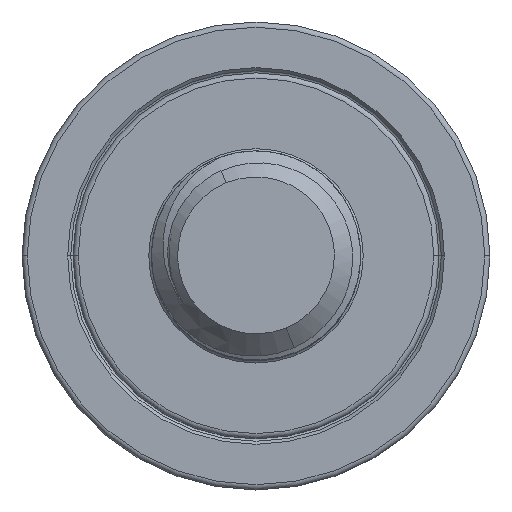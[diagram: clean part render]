
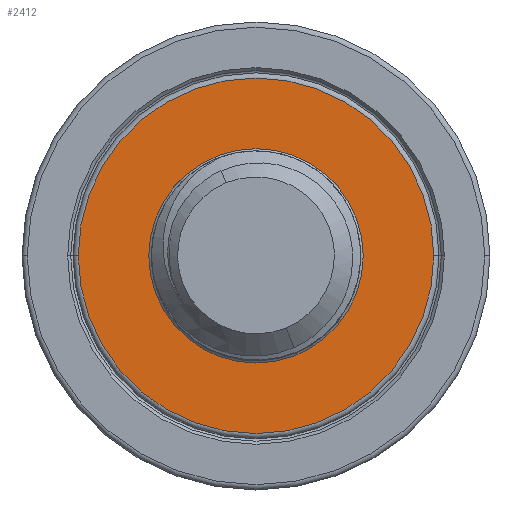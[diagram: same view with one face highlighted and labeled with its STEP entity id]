
A CAD part, top view. The second image highlights one B-rep face of the part: STEP entity #2412.
In plain terms, the highlighted planar face has unit normal (0, 0, 1).
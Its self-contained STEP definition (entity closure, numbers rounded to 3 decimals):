
#94 = AXIS2_PLACEMENT_3D ( 'NONE', #4004, #1506, #4457 ) ;
#128 = CARTESIAN_POINT ( 'NONE',  ( -10.142, 20.716, 19.051 ) ) ;
#172 = AXIS2_PLACEMENT_3D ( 'NONE', #2286, #2160, #2235 ) ;
#275 = FACE_OUTER_BOUND ( 'NONE', #3949, .T. ) ;
#378 = CARTESIAN_POINT ( 'NONE',  ( -3.342, 20.716, 19.051 ) ) ;
#403 = DIRECTION ( 'NONE',  ( 1., 0., 0. ) ) ;
#464 = AXIS2_PLACEMENT_3D ( 'NONE', #5476, #2899, #403 ) ;
#515 = DIRECTION ( 'NONE',  ( 1., 0., 0. ) ) ;
#792 = DIRECTION ( 'NONE',  ( 1., 0., 0. ) ) ;
#867 = VERTEX_POINT ( 'NONE', #3047 ) ;
#1339 = DIRECTION ( 'NONE',  ( 0., 0., 1. ) ) ;
#1415 = VERTEX_POINT ( 'NONE', #4787 ) ;
#1506 = DIRECTION ( 'NONE',  ( 0., 0., 1. ) ) ;
#1549 = EDGE_CURVE ( 'NONE', #2247, #1415, #3307, .T. ) ;
#2160 = DIRECTION ( 'NONE',  ( 0., 0., 1. ) ) ;
#2235 = DIRECTION ( 'NONE',  ( 1., 0., 0. ) ) ;
#2247 = VERTEX_POINT ( 'NONE', #128 ) ;
#2286 = CARTESIAN_POINT ( 'NONE',  ( -3.342, 20.716, 19.051 ) ) ;
#2318 = CIRCLE ( 'NONE', #3449, 4.1 ) ;
#2412 = ADVANCED_FACE ( 'NONE', ( #275, #4629 ), #3437, .T. ) ;
#2596 = CARTESIAN_POINT ( 'NONE',  ( 3.658, 20.716, 19.051 ) ) ;
#2741 = CARTESIAN_POINT ( 'NONE',  ( 0.758, 20.716, 19.051 ) ) ;
#2899 = DIRECTION ( 'NONE',  ( 0., 0., 1. ) ) ;
#2976 = ORIENTED_EDGE ( 'NONE', *, *, #4881, .T. ) ;
#3047 = CARTESIAN_POINT ( 'NONE',  ( -7.442, 20.716, 19.051 ) ) ;
#3104 = ORIENTED_EDGE ( 'NONE', *, *, #3897, .F. ) ;
#3169 = VERTEX_POINT ( 'NONE', #2741 ) ;
#3304 = DIRECTION ( 'NONE',  ( 0., 0., 1. ) ) ;
#3307 = CIRCLE ( 'NONE', #172, 6.8 ) ;
#3437 = PLANE ( 'NONE',  #5297 ) ;
#3449 = AXIS2_PLACEMENT_3D ( 'NONE', #378, #3304, #792 ) ;
#3897 = EDGE_CURVE ( 'NONE', #3169, #867, #2318, .T. ) ;
#3949 = EDGE_LOOP ( 'NONE', ( #2976, #4569 ) ) ;
#4004 = CARTESIAN_POINT ( 'NONE',  ( -3.342, 20.716, 19.051 ) ) ;
#4098 = CIRCLE ( 'NONE', #464, 4.1 ) ;
#4135 = EDGE_CURVE ( 'NONE', #867, #3169, #4098, .T. ) ;
#4158 = EDGE_LOOP ( 'NONE', ( #3104, #4673 ) ) ;
#4457 = DIRECTION ( 'NONE',  ( 1., 0., 0. ) ) ;
#4569 = ORIENTED_EDGE ( 'NONE', *, *, #1549, .T. ) ;
#4629 = FACE_BOUND ( 'NONE', #4158, .T. ) ;
#4673 = ORIENTED_EDGE ( 'NONE', *, *, #4135, .F. ) ;
#4787 = CARTESIAN_POINT ( 'NONE',  ( 3.458, 20.716, 19.051 ) ) ;
#4881 = EDGE_CURVE ( 'NONE', #1415, #2247, #5111, .T. ) ;
#5111 = CIRCLE ( 'NONE', #94, 6.8 ) ;
#5297 = AXIS2_PLACEMENT_3D ( 'NONE', #2596, #1339, #515 ) ;
#5476 = CARTESIAN_POINT ( 'NONE',  ( -3.342, 20.716, 19.051 ) ) ;
